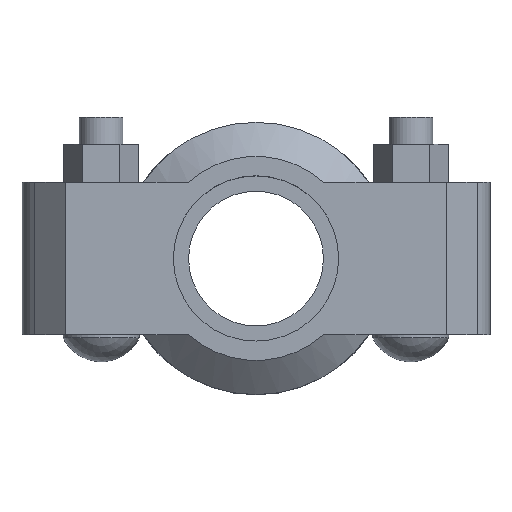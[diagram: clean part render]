
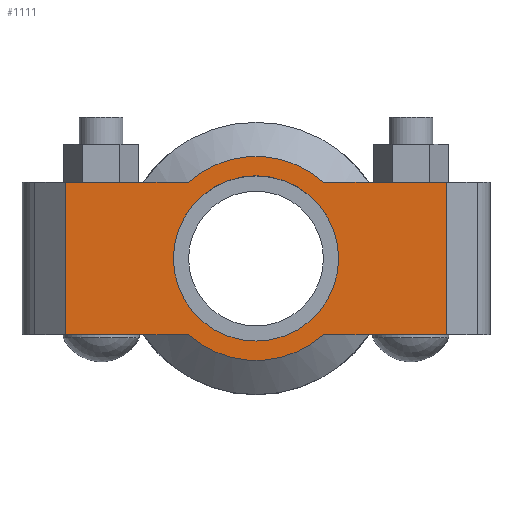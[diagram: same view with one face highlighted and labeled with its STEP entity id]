
A CAD part, top view. The second image highlights one B-rep face of the part: STEP entity #1111.
In plain terms, the highlighted planar face has unit normal (0, 0, 1).
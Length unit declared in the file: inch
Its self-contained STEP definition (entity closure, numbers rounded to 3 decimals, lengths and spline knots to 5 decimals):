
#75=FACE_BOUND('',#226,.T.);
#105=PLANE('',#1226);
#153=FACE_OUTER_BOUND('',#225,.T.);
#225=EDGE_LOOP('',(#888,#889,#890,#891,#892,#893,#894,#895));
#226=EDGE_LOOP('',(#896));
#298=LINE('',#1752,#385);
#313=LINE('',#1811,#400);
#321=LINE('',#1841,#408);
#323=LINE('',#1844,#410);
#324=LINE('',#1849,#411);
#325=LINE('',#1850,#412);
#385=VECTOR('',#1433,0.3937);
#400=VECTOR('',#1468,0.3937);
#408=VECTOR('',#1488,0.3937);
#410=VECTOR('',#1492,0.3937);
#411=VECTOR('',#1497,0.3937);
#412=VECTOR('',#1498,0.3937);
#437=CIRCLE('',#1183,0.95);
#453=CIRCLE('',#1227,1.172);
#454=CIRCLE('',#1228,1.172);
#480=VERTEX_POINT('',#1644);
#515=VERTEX_POINT('',#1749);
#516=VERTEX_POINT('',#1751);
#537=VERTEX_POINT('',#1806);
#538=VERTEX_POINT('',#1810);
#547=VERTEX_POINT('',#1836);
#548=VERTEX_POINT('',#1840);
#549=VERTEX_POINT('',#1846);
#550=VERTEX_POINT('',#1848);
#581=EDGE_CURVE('',#480,#480,#437,.T.);
#632=EDGE_CURVE('',#516,#515,#298,.T.);
#657=EDGE_CURVE('',#538,#537,#313,.T.);
#670=EDGE_CURVE('',#548,#547,#321,.T.);
#672=EDGE_CURVE('',#548,#515,#323,.T.);
#673=EDGE_CURVE('',#547,#549,#453,.T.);
#674=EDGE_CURVE('',#549,#550,#324,.T.);
#675=EDGE_CURVE('',#538,#550,#325,.T.);
#676=EDGE_CURVE('',#537,#516,#454,.T.);
#888=ORIENTED_EDGE('',*,*,#672,.F.);
#889=ORIENTED_EDGE('',*,*,#670,.T.);
#890=ORIENTED_EDGE('',*,*,#673,.T.);
#891=ORIENTED_EDGE('',*,*,#674,.T.);
#892=ORIENTED_EDGE('',*,*,#675,.F.);
#893=ORIENTED_EDGE('',*,*,#657,.T.);
#894=ORIENTED_EDGE('',*,*,#676,.T.);
#895=ORIENTED_EDGE('',*,*,#632,.T.);
#896=ORIENTED_EDGE('',*,*,#581,.T.);
#1111=ADVANCED_FACE('',(#153,#75),#105,.T.);
#1183=AXIS2_PLACEMENT_3D('',#1646,#1337,#1338);
#1226=AXIS2_PLACEMENT_3D('',#1845,#1493,#1494);
#1227=AXIS2_PLACEMENT_3D('',#1847,#1495,#1496);
#1228=AXIS2_PLACEMENT_3D('',#1851,#1499,#1500);
#1337=DIRECTION('center_axis',(0.,0.,-1.));
#1338=DIRECTION('ref_axis',(1.,0.,0.));
#1433=DIRECTION('',(1.,0.,0.));
#1468=DIRECTION('',(1.,0.,0.));
#1488=DIRECTION('',(-1.,0.,0.));
#1492=DIRECTION('',(0.,-1.,0.));
#1493=DIRECTION('center_axis',(0.,0.,1.));
#1494=DIRECTION('ref_axis',(-1.,0.,0.));
#1495=DIRECTION('center_axis',(0.,0.,1.));
#1496=DIRECTION('ref_axis',(1.,0.,0.));
#1497=DIRECTION('',(-1.,0.,0.));
#1498=DIRECTION('',(0.,1.,0.));
#1499=DIRECTION('center_axis',(0.,0.,1.));
#1500=DIRECTION('ref_axis',(1.,0.,0.));
#1644=CARTESIAN_POINT('',(-0.95,0.,0.94));
#1646=CARTESIAN_POINT('Origin',(0.,0.,0.94));
#1749=CARTESIAN_POINT('',(2.19,-0.875,0.94));
#1751=CARTESIAN_POINT('',(0.77972,-0.875,0.94));
#1752=CARTESIAN_POINT('',(-2.69,-0.875,0.94));
#1806=CARTESIAN_POINT('',(-0.77972,-0.875,0.94));
#1810=CARTESIAN_POINT('',(-2.19,-0.875,0.94));
#1811=CARTESIAN_POINT('',(-2.69,-0.875,0.94));
#1836=CARTESIAN_POINT('',(0.77972,0.875,0.94));
#1840=CARTESIAN_POINT('',(2.19,0.875,0.94));
#1841=CARTESIAN_POINT('',(2.69,0.875,0.94));
#1844=CARTESIAN_POINT('',(2.19,-0.4375,0.94));
#1845=CARTESIAN_POINT('Origin',(0.,0.,
0.94));
#1846=CARTESIAN_POINT('',(-0.77972,0.875,0.94));
#1847=CARTESIAN_POINT('Origin',(0.,0.,0.94));
#1848=CARTESIAN_POINT('',(-2.19,0.875,0.94));
#1849=CARTESIAN_POINT('',(2.69,0.875,0.94));
#1850=CARTESIAN_POINT('',(-2.19,0.4375,0.94));
#1851=CARTESIAN_POINT('Origin',(0.,0.,0.94));
